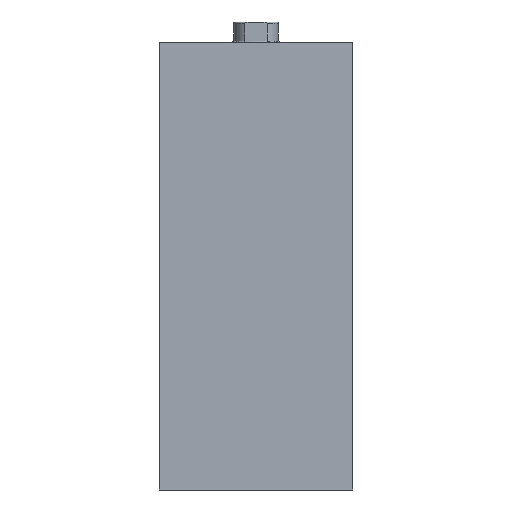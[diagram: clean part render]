
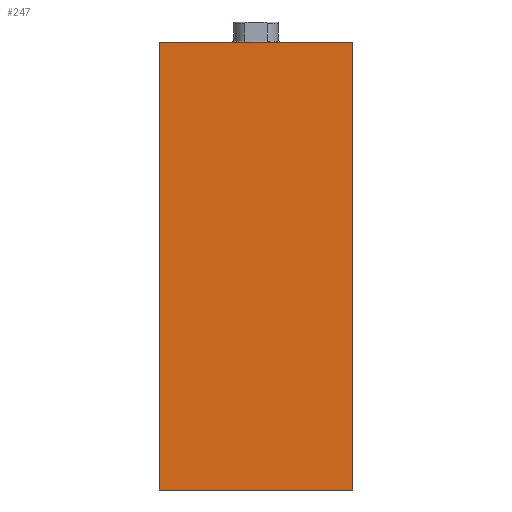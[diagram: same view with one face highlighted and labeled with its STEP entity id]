
A CAD part, left-side view. The second image highlights one B-rep face of the part: STEP entity #247.
In plain terms, the highlighted planar face has unit normal (-1, 0, 0) as drawn and (0, 0, -1) by its records, which use the part's own axes.
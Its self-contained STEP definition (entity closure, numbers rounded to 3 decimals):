
#247 = ADVANCED_FACE( '', ( #328 ), #329, .F. );
#328 = FACE_OUTER_BOUND( '', #524, .T. );
#329 = PLANE( '', #525 );
#524 = EDGE_LOOP( '', ( #739, #740, #741, #742 ) );
#525 = AXIS2_PLACEMENT_3D( '', #743, #744, #745 );
#739 = ORIENTED_EDGE( '', *, *, #1081, .T. );
#740 = ORIENTED_EDGE( '', *, *, #1097, .F. );
#741 = ORIENTED_EDGE( '', *, *, #1092, .F. );
#742 = ORIENTED_EDGE( '', *, *, #1096, .T. );
#743 = CARTESIAN_POINT( '', ( 150., -32.5, -22.5 ) );
#744 = DIRECTION( '', ( 0., 0., 1. ) );
#745 = DIRECTION( '', ( 1., 0., 0. ) );
#1081 = EDGE_CURVE( '', #1175, #1173, #1176, .T. );
#1092 = EDGE_CURVE( '', #1193, #1195, #1196, .T. );
#1096 = EDGE_CURVE( '', #1193, #1175, #1202, .T. );
#1097 = EDGE_CURVE( '', #1195, #1173, #1203, .T. );
#1173 = VERTEX_POINT( '', #1406 );
#1175 = VERTEX_POINT( '', #1409 );
#1176 = LINE( '', #1410, #1411 );
#1193 = VERTEX_POINT( '', #1600 );
#1195 = VERTEX_POINT( '', #1603 );
#1196 = LINE( '', #1604, #1605 );
#1202 = B_SPLINE_CURVE_WITH_KNOTS( '', 1, ( #1678, #1679 ), .UNSPECIFIED., .F., .F., ( 2, 2 ), ( 0., 1. ), .UNSPECIFIED. );
#1203 = B_SPLINE_CURVE_WITH_KNOTS( '', 1, ( #1680, #1681 ), .UNSPECIFIED., .F., .F., ( 2, 2 ), ( 0., 1. ), .UNSPECIFIED. );
#1406 = CARTESIAN_POINT( '', ( 0., 32.5, -22.5 ) );
#1409 = CARTESIAN_POINT( '', ( 0., -32.5, -22.5 ) );
#1410 = CARTESIAN_POINT( '', ( 0., -32.5, -22.5 ) );
#1411 = VECTOR( '', #3655, 1000. );
#1600 = CARTESIAN_POINT( '', ( 150., -32.5, -22.5 ) );
#1603 = CARTESIAN_POINT( '', ( 150., 32.5, -22.5 ) );
#1604 = CARTESIAN_POINT( '', ( 150., -32.5, -22.5 ) );
#1605 = VECTOR( '', #3659, 1000. );
#1678 = CARTESIAN_POINT( '', ( 150., -32.5, -22.5 ) );
#1679 = CARTESIAN_POINT( '', ( 0., -32.5, -22.5 ) );
#1680 = CARTESIAN_POINT( '', ( 150., 32.5, -22.5 ) );
#1681 = CARTESIAN_POINT( '', ( 0., 32.5, -22.5 ) );
#3655 = DIRECTION( '', ( 0., 1., 0. ) );
#3659 = DIRECTION( '', ( 0., 1., 0. ) );
